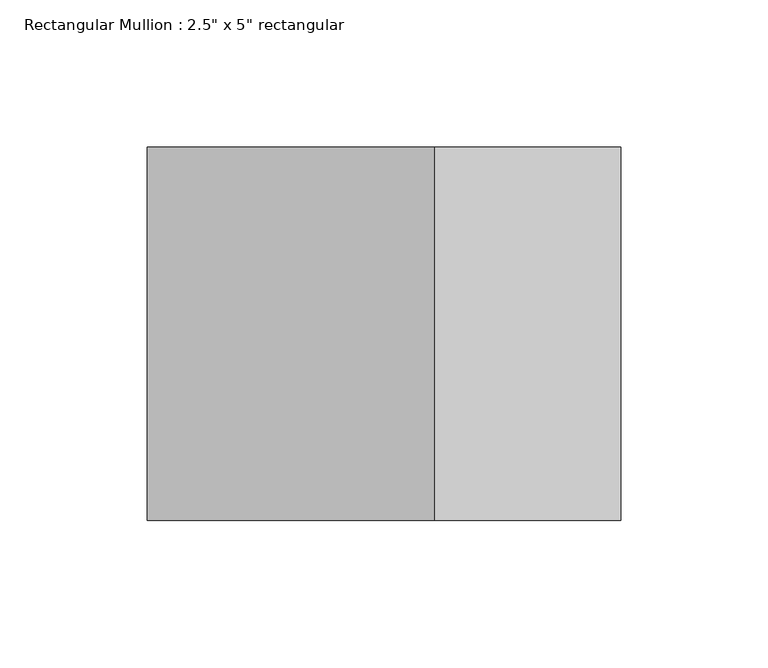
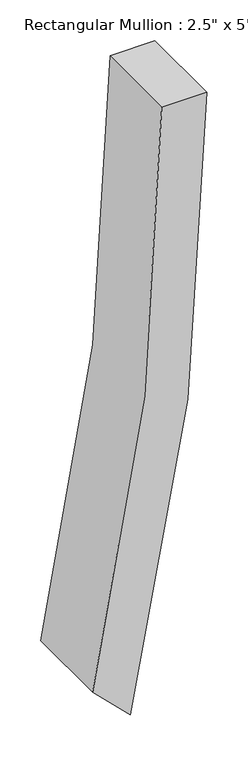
"""IFC4 building model written with IfcOpenShell, lengths in millimetres: member geometry."""

from ifc_helpers import new_model, si_unit, point, frame, frame_2d, origin, place, context, project, spatial, polyline, circle_curve, trimmed, segment, composite_curve, outline, extrude, source, transform, mapped, element, save


def member_faeb69b8(model_context):
    return source(origin(), model_context, "Body", "SweptSolid", [
        extrude(outline(composite_curve([segment(trimmed(circle_curve(frame_2d((0.0, -3722.1588985)), 3722.1588985), [point((-891.3049149, -108.2908303))], [point((0.0, 0.0))], False, "CARTESIAN"), True, "CONTINUOUS"), segment(polyline([(0.0, 0.0), (0.0, -63.5)]), True, "CONTINUOUS"), segment(trimmed(circle_curve(frame_2d((0.0, -3722.1588985)), 3658.6588985), [point((0.0, -63.5))], [point((-839.5960101, -161.1388936))], True, "CARTESIAN"), True, "CONTINUOUS"), segment(polyline([(-839.5960101, -161.1388936), (-891.3049149, -108.2908303)]), True, "CONTINUOUS")], self_intersect=False)), frame((0.0, -63.5, 0.0), z_axis=(0.0, 1.0, 0.0), x_axis=(0.0, 0.0, 1.0)), (0.0, 0.0, 1.0), 127.0),
    ])


if __name__ == "__main__":
    model = new_model("IFC4")
    model_context = context("Model", 3, world=origin())
    ifc_project = project(units=[si_unit("LENGTHUNIT", "METRE", prefix="MILLI")], contexts=[model_context])
    site = spatial("IfcSite", under=ifc_project)
    building = spatial("IfcBuilding", under=site)
    placement = place(None, origin())
    member_shape = member_faeb69b8(model_context)
    element("IfcMember", 1, ObjectType="Rectangular Mullion : 2.5\" x 5\" rectangular", at=placement, inside=building, context=model_context, shape_type="MappedRepresentation", body=[
        mapped(member_shape, transform((0.0, 0.0, 0.0), x_axis=(1.0, 0.0, 0.0), y_axis=(0.0, 1.0, 0.0), z_axis=(0.0, 0.0, 1.0))),
    ])
    save(model, "model.ifc")
